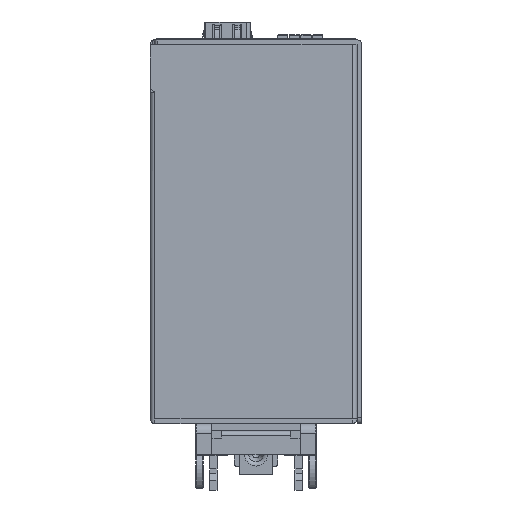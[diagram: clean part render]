
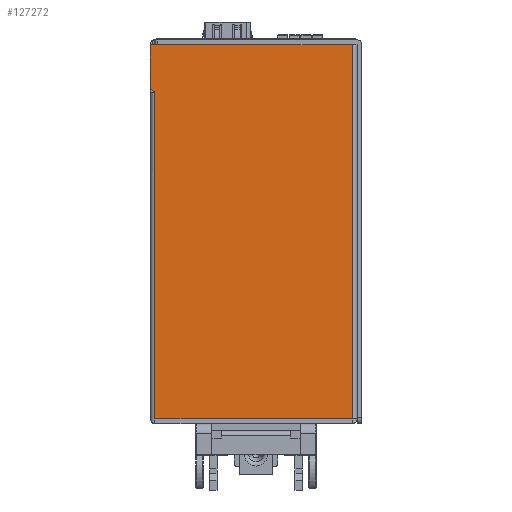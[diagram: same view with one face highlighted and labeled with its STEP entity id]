
A CAD part, front view. The second image highlights one B-rep face of the part: STEP entity #127272.
In plain terms, the highlighted planar face has unit normal (0, -1, 0).
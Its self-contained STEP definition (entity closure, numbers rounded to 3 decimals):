
#4876=PLANE('',#136212);
#11951=FACE_OUTER_BOUND('',#18563,.T.);
#18563=EDGE_LOOP('',(#111440,#111441,#111442,#111443,#111444,#111445,#111446,
#111447,#111448));
#22069=CIRCLE('',#136168,0.25);
#22072=CIRCLE('',#136177,1.);
#22075=CIRCLE('',#136182,1.);
#34442=LINE('',#215424,#48136);
#35035=LINE('',#218337,#48729);
#35080=LINE('',#218490,#48774);
#35081=LINE('',#218492,#48775);
#35082=LINE('',#218494,#48776);
#35083=LINE('',#218495,#48777);
#48136=VECTOR('',#165227,10.);
#48729=VECTOR('',#166242,10.);
#48774=VECTOR('',#166369,10.);
#48775=VECTOR('',#166372,10.);
#48776=VECTOR('',#166375,10.);
#48777=VECTOR('',#166376,10.);
#59789=VERTEX_POINT('',#215416);
#59792=VERTEX_POINT('',#215422);
#60347=VERTEX_POINT('',#218329);
#60349=VERTEX_POINT('',#218335);
#60359=VERTEX_POINT('',#218363);
#60361=VERTEX_POINT('',#218372);
#60391=VERTEX_POINT('',#218456);
#60395=VERTEX_POINT('',#218486);
#60396=VERTEX_POINT('',#218488);
#76728=EDGE_CURVE('',#59792,#59789,#34442,.T.);
#77541=EDGE_CURVE('',#60347,#59792,#22069,.T.);
#77544=EDGE_CURVE('',#60349,#60347,#35035,.T.);
#77557=EDGE_CURVE('',#60359,#60349,#22072,.T.);
#77562=EDGE_CURVE('',#60359,#60361,#22075,.F.);
#77614=EDGE_CURVE('',#60396,#60395,#35080,.T.);
#77615=EDGE_CURVE('',#60391,#60395,#35081,.T.);
#77616=EDGE_CURVE('',#60391,#60361,#35082,.T.);
#77617=EDGE_CURVE('',#60396,#59789,#35083,.T.);
#111440=ORIENTED_EDGE('',*,*,#77541,.F.);
#111441=ORIENTED_EDGE('',*,*,#77544,.F.);
#111442=ORIENTED_EDGE('',*,*,#77557,.F.);
#111443=ORIENTED_EDGE('',*,*,#77562,.T.);
#111444=ORIENTED_EDGE('',*,*,#77616,.F.);
#111445=ORIENTED_EDGE('',*,*,#77615,.T.);
#111446=ORIENTED_EDGE('',*,*,#77614,.F.);
#111447=ORIENTED_EDGE('',*,*,#77617,.T.);
#111448=ORIENTED_EDGE('',*,*,#76728,.F.);
#127272=ADVANCED_FACE('',(#11951),#4876,.T.);
#136168=AXIS2_PLACEMENT_3D('',#218331,#166236,#166237);
#136177=AXIS2_PLACEMENT_3D('',#218365,#166267,#166268);
#136182=AXIS2_PLACEMENT_3D('',#218374,#166279,#166280);
#136212=AXIS2_PLACEMENT_3D('',#218493,#166373,#166374);
#165227=DIRECTION('',(1.,0.,0.));
#166236=DIRECTION('center_axis',(0.,1.,0.));
#166237=DIRECTION('ref_axis',(-0.707,0.,
0.707));
#166242=DIRECTION('',(0.,0.,1.));
#166267=DIRECTION('center_axis',(0.,1.,0.));
#166268=DIRECTION('ref_axis',(1.,0.,0.));
#166279=DIRECTION('center_axis',(0.,-1.,0.));
#166280=DIRECTION('ref_axis',(0.866,0.,0.5));
#166369=DIRECTION('',(0.,0.,-1.));
#166372=DIRECTION('',(1.,0.,0.));
#166373=DIRECTION('center_axis',(0.,-1.,0.));
#166374=DIRECTION('ref_axis',(0.,0.,-1.));
#166375=DIRECTION('',(0.,0.,1.));
#166376=DIRECTION('',(-1.,0.,0.));
#215416=CARTESIAN_POINT('',(-57.205,-79.389,38.8));
#215422=CARTESIAN_POINT('',(-58.455,-79.389,38.8));
#215424=CARTESIAN_POINT('',(-57.705,-79.389,38.8));
#218329=CARTESIAN_POINT('',(-58.705,-79.389,38.55));
#218331=CARTESIAN_POINT('Origin',(-58.455,-79.389,38.55));
#218335=CARTESIAN_POINT('',(-58.705,-79.389,30.103));
#218337=CARTESIAN_POINT('',(-58.705,-79.389,29.3));
#218363=CARTESIAN_POINT('',(-58.138,-79.389,29.201));
#218365=CARTESIAN_POINT('Origin',(-57.705,-79.389,30.103));
#218372=CARTESIAN_POINT('',(-57.705,-79.389,28.8));
#218374=CARTESIAN_POINT('Origin',(-58.571,-79.389,28.3));
#218456=CARTESIAN_POINT('',(-57.705,-79.389,-38.99));
#218486=CARTESIAN_POINT('',(-16.705,-79.389,-38.99));
#218488=CARTESIAN_POINT('',(-16.705,-79.389,38.8));
#218490=CARTESIAN_POINT('',(-16.705,-79.389,14.353));
#218492=CARTESIAN_POINT('',(-57.705,-79.389,-38.99));
#218493=CARTESIAN_POINT('Origin',(-58.705,-79.389,28.8));
#218494=CARTESIAN_POINT('',(-57.705,-79.389,11.6));
#218495=CARTESIAN_POINT('',(-58.705,-79.389,38.8));
